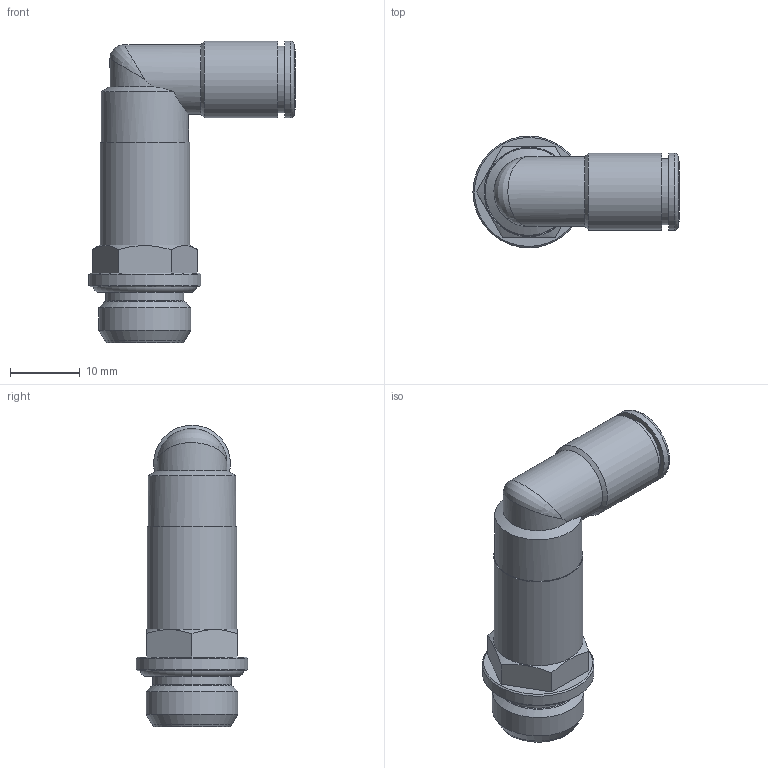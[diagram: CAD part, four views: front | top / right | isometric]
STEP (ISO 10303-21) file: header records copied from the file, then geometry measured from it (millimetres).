
FILE_DESCRIPTION(('Bauteilbeschreibung','HiCAD-Model','HiCAD-STEP-TRANSLATION','Bauteilbeschreibung'),'2;1');
FILE_NAME('B:/ABGLEICH/ZEICHNUNGEN/STEP FÜR INTERNET/STEP/IPSO 026/202604_IPSO_026_6_1-4.STP','2012-02-20T12:09:18+00:00',('Konstrukteur'),('Konstrukteur Firma GmbH'),' HiCAD neXt 2008, Step 3.1.1401.2J ','HiCAD neXt 2008','confidential');
FILE_SCHEMA(('AUTOMOTIVE_DESIGN { 1 2 10303 214 0 1 1 1 }'));
Length unit declared in the file: millimetre
Products named in the file (7): A02604_IPSO_026_6_1_4; OR 11_11X1_78; DR6_1_NEU; R202203_N2; A14613_N2; A146130N2; G 1_4
Assembly tree (6 placements, depth 3):
  A02604_IPSO_026_6_1_4
    OR 11_11X1_78
    DR6_1_NEU
    R202203_N2
    A14613_N2
    A146130N2
      G 1_4
Bounding box: 29.5 x 16 x 43.2 mm (x, y, z)
Volume: 4637.9 mm3; surface area: 5463.6 mm2
Topology: 5 solids, 5 shells, 77 faces, 166 edges, 100 vertices
Faces by surface type: cylinder 25, cone 24, plane 20, torus 7, bspline 1
Full cylindrical faces by diameter (mm): 4 x1, 5.5 x1, 6 x1, 6.1 x1, 6.2 x1, 8.3 x1, 8.5 x1, 9 x3, 9.5 x1, 9.6 x1, 10 x1, 10.1 x2, 11 x2, 11.2 x1, 11.445 x2, 12.5 x1, 12.8 x1, 13.157 x1, 16 x1
Entity records: 3409 total; most frequent: CARTESIAN_POINT 1415, DIRECTION 334, ORIENTED_EDGE 194, AXIS2_PLACEMENT_3D 161, EDGE_LOOP 141, EDGE_CURVE 97, COLOUR_RGB 88, PRESENTATION_STYLE_ASSIGNMENT 88
